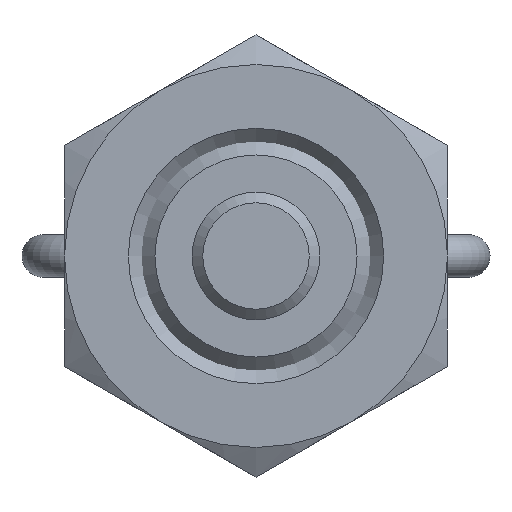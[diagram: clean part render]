
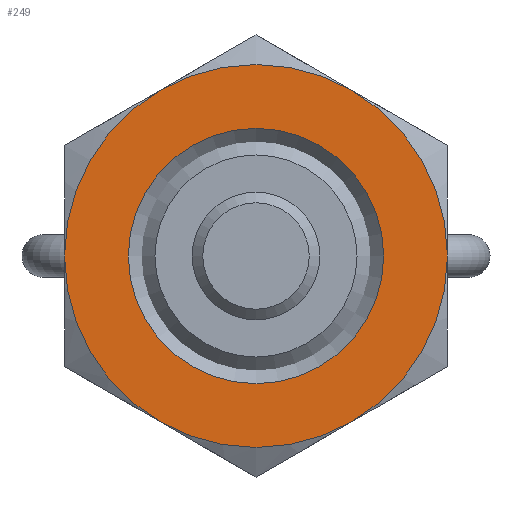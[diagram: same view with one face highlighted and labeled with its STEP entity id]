
A CAD part, front view. The second image highlights one B-rep face of the part: STEP entity #249.
In plain terms, the highlighted planar face has unit normal (0, -1, 0) as drawn and (1, 0, 0) by its records, which use the part's own axes.
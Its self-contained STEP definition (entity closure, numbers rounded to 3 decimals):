
#249 = ADVANCED_FACE( '', ( #385, #386 ), #387, .F. );
#385 = FACE_BOUND( '', #545, .T. );
#386 = FACE_OUTER_BOUND( '', #546, .T. );
#387 = PLANE( '', #547 );
#545 = EDGE_LOOP( '', ( #859 ) );
#546 = EDGE_LOOP( '', ( #860, #861, #862, #863, #864, #865 ) );
#547 = AXIS2_PLACEMENT_3D( '', #866, #867, #868 );
#859 = ORIENTED_EDGE( '', *, *, #1070, .F. );
#860 = ORIENTED_EDGE( '', *, *, #1071, .T. );
#861 = ORIENTED_EDGE( '', *, *, #1072, .T. );
#862 = ORIENTED_EDGE( '', *, *, #1073, .T. );
#863 = ORIENTED_EDGE( '', *, *, #1074, .T. );
#864 = ORIENTED_EDGE( '', *, *, #1075, .T. );
#865 = ORIENTED_EDGE( '', *, *, #1076, .T. );
#866 = CARTESIAN_POINT( '', ( 6., 9., 0. ) );
#867 = DIRECTION( '', ( -1., 0., 0. ) );
#868 = DIRECTION( '', ( 0., 0., 1. ) );
#1070 = EDGE_CURVE( '', #1240, #1240, #1241, .T. );
#1071 = EDGE_CURVE( '', #1242, #1243, #1244, .T. );
#1072 = EDGE_CURVE( '', #1243, #1222, #1245, .T. );
#1073 = EDGE_CURVE( '', #1222, #1213, #1246, .T. );
#1074 = EDGE_CURVE( '', #1213, #1234, #1247, .T. );
#1075 = EDGE_CURVE( '', #1234, #1248, #1249, .T. );
#1076 = EDGE_CURVE( '', #1248, #1242, #1250, .T. );
#1213 = VERTEX_POINT( '', #1486 );
#1222 = VERTEX_POINT( '', #1516 );
#1234 = VERTEX_POINT( '', #1554 );
#1240 = VERTEX_POINT( '', #1584 );
#1241 = CIRCLE( '', #1585, 6. );
#1242 = VERTEX_POINT( '', #1586 );
#1243 = VERTEX_POINT( '', #1587 );
#1244 = CIRCLE( '', #1588, 9. );
#1245 = CIRCLE( '', #1589, 9. );
#1246 = CIRCLE( '', #1590, 9. );
#1247 = CIRCLE( '', #1591, 9. );
#1248 = VERTEX_POINT( '', #1592 );
#1249 = CIRCLE( '', #1593, 9. );
#1250 = CIRCLE( '', #1594, 9. );
#1486 = CARTESIAN_POINT( '', ( 6., 0., 9. ) );
#1516 = CARTESIAN_POINT( '', ( 6., 7.794, 4.5 ) );
#1554 = CARTESIAN_POINT( '', ( 6., -7.794, 4.5 ) );
#1584 = CARTESIAN_POINT( '', ( 6., 0., -6. ) );
#1585 = AXIS2_PLACEMENT_3D( '', #1829, #1830, #1831 );
#1586 = CARTESIAN_POINT( '', ( 6., 0., -9. ) );
#1587 = CARTESIAN_POINT( '', ( 6., 7.794, -4.5 ) );
#1588 = AXIS2_PLACEMENT_3D( '', #1832, #1833, #1834 );
#1589 = AXIS2_PLACEMENT_3D( '', #1835, #1836, #1837 );
#1590 = AXIS2_PLACEMENT_3D( '', #1838, #1839, #1840 );
#1591 = AXIS2_PLACEMENT_3D( '', #1841, #1842, #1843 );
#1592 = CARTESIAN_POINT( '', ( 6., -7.794, -4.5 ) );
#1593 = AXIS2_PLACEMENT_3D( '', #1844, #1845, #1846 );
#1594 = AXIS2_PLACEMENT_3D( '', #1847, #1848, #1849 );
#1829 = CARTESIAN_POINT( '', ( 6., 0., 0. ) );
#1830 = DIRECTION( '', ( 1., 0., 0. ) );
#1831 = DIRECTION( '', ( 0., 0., -1. ) );
#1832 = CARTESIAN_POINT( '', ( 6., 0., 0. ) );
#1833 = DIRECTION( '', ( 1., 0., 0. ) );
#1834 = DIRECTION( '', ( 0., 0., -1. ) );
#1835 = CARTESIAN_POINT( '', ( 6., 0., 0. ) );
#1836 = DIRECTION( '', ( 1., 0., 0. ) );
#1837 = DIRECTION( '', ( 0., 0., -1. ) );
#1838 = CARTESIAN_POINT( '', ( 6., 0., 0. ) );
#1839 = DIRECTION( '', ( 1., 0., 0. ) );
#1840 = DIRECTION( '', ( 0., 0., -1. ) );
#1841 = CARTESIAN_POINT( '', ( 6., 0., 0. ) );
#1842 = DIRECTION( '', ( 1., 0., 0. ) );
#1843 = DIRECTION( '', ( 0., 0., -1. ) );
#1844 = CARTESIAN_POINT( '', ( 6., 0., 0. ) );
#1845 = DIRECTION( '', ( 1., 0., 0. ) );
#1846 = DIRECTION( '', ( 0., 0., -1. ) );
#1847 = CARTESIAN_POINT( '', ( 6., 0., 0. ) );
#1848 = DIRECTION( '', ( 1., 0., 0. ) );
#1849 = DIRECTION( '', ( 0., 0., -1. ) );
